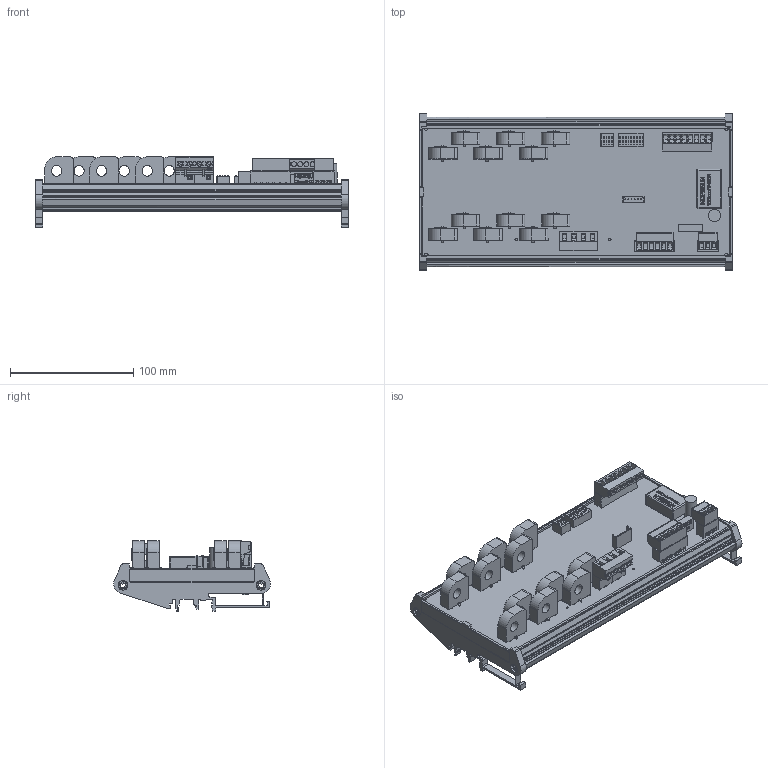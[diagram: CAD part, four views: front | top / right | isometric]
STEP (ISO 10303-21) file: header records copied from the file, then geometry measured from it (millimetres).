
FILE_DESCRIPTION(('FreeCAD Model'),'2;1');
FILE_NAME('C:/3D Files/Stringhe/ST0HS/ST0HS12xx/ST0HS12xx.step', '2023-01-13T09:13:34',('Author'),(''), 'Open CASCADE STEP processor 7.3','FreeCAD','Unknown');
FILE_SCHEMA(('AUTOMOTIVE_DESIGN { 1 0 10303 214 1 1 1 1 }'));
Length unit declared in the file: millimetre
Products named in the file (30): ST0HS12xx; AmpModu_6P_M; DipSwitch8; DipSwitch4; IB2405LS-1W; WRB2403ZP-6WR003; ELNA_470_uF_35_V; Mstb_06Pc_M; Mstb_06P_F; Mstb_03P_F; Mstb_03Pc_M; SH04-7,62; PV02-7,62-V-Pa; PV02-7,62-V-Pb; Mstb_8P_F; Mstb_8Pc_M; CHK-LSP5S2L-BP-CH_05; CHK-LSP5S2L-BP-CH_06; CHK-LSP5S2L-BP-CH_07; CHK-LSP5S2L-BP-CH_08; CHK-LSP5S2L-BP-CH_09; CHK-LSP5S2L-BP-CH_10; CHK-LSP5S2L-BP-CH_11; CHK-LSP5S2L-BP-CH_12; Profilo_254x128; Stampato; CHK-LSP5S2L-BP-CH_01; CHK-LSP5S2L-BP-CH_02; CHK-LSP5S2L-BP-CH_03; CHK-LSP5S2L-BP-CH_04
Assembly tree (29 placements, depth 2):
  ST0HS12xx
    AmpModu_6P_M
    DipSwitch8
    DipSwitch4
    IB2405LS-1W
    WRB2403ZP-6WR003
    ELNA_470_uF_35_V
    Mstb_06Pc_M
    Mstb_06P_F
    Mstb_03P_F
    Mstb_03Pc_M
    SH04-7,62
    PV02-7,62-V-Pa
    PV02-7,62-V-Pb
    Mstb_8P_F
    Mstb_8Pc_M
    CHK-LSP5S2L-BP-CH_05
    CHK-LSP5S2L-BP-CH_06
    CHK-LSP5S2L-BP-CH_07
    CHK-LSP5S2L-BP-CH_08
    CHK-LSP5S2L-BP-CH_09
    CHK-LSP5S2L-BP-CH_10
    CHK-LSP5S2L-BP-CH_11
    CHK-LSP5S2L-BP-CH_12
    Profilo_254x128
    Stampato
    CHK-LSP5S2L-BP-CH_01
    CHK-LSP5S2L-BP-CH_02
    CHK-LSP5S2L-BP-CH_03
    CHK-LSP5S2L-BP-CH_04
Bounding box: 254 x 127.59 x 57.69 mm (x, y, z)
Volume: 227832.9 mm3; surface area: 242426.1 mm2
Topology: 41 solids, 80 shells, 5039 faces, 14913 edges, 12965 vertices
Faces by surface type: plane 3816, cylinder 792, bspline 229, torus 124, cone 59, sphere 16, extrusion 3
Full cylindrical faces by diameter (mm): 0.5 x4, 0.75 x36, 1 x10, 1.5 x8, 1.6 x13, 3.8 x4, 4 x21, 4.3 x2, 7.9 x4, 9.202 x2, 10 x1
Entity records: 382722 total; most frequent: CARTESIAN_POINT 89520, DIRECTION 48671, VECTOR 33981, LINE 33978, ORIENTED_EDGE 27219, PCURVE 27219, DEFINITIONAL_REPRESENTATION 27219, EDGE_CURVE 13972
